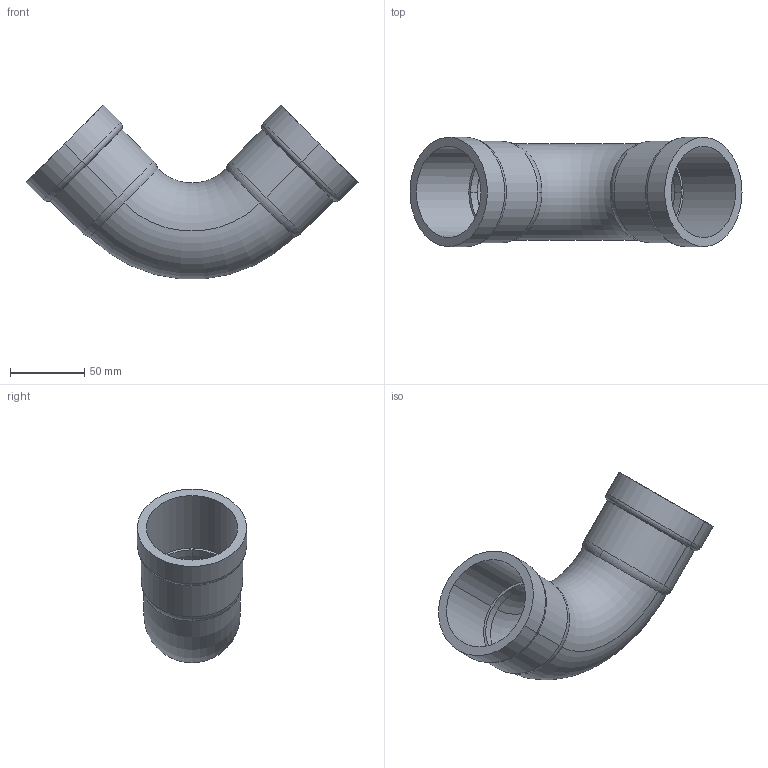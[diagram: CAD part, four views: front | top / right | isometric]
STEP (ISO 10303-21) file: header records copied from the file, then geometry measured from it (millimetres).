
FILE_DESCRIPTION(('Creo Elements/Direct Modeling STEP Export'),'2;1');
FILE_NAME('C9408_1-1-2.stp','2020-06-23T14:55:57',(''),(''),'PTC Creo Elements/Direct Modeling STEP processor for AP214 (Solid Model)','PTC Creo Elements/Direct Modeling 19.0C 15-Aug-2015 (C) Parametric Technology GmbH','');
FILE_SCHEMA(('AUTOMOTIVE_DESIGN { 1 0 10303 214 1 1 1 1 }'));
Length unit declared in the file: millimetre
Products named in the file (2): 9408
Assembly tree (1 placements, depth 2):
  9408
    9408
Bounding box: 224.04 x 73.8 x 117.23 mm (x, y, z)
Volume: 174189 mm3; surface area: 89959.2 mm2
Topology: 1 solids, 1 shells, 36 faces, 84 edges, 52 vertices
Faces by surface type: cylinder 16, torus 12, plane 4, cone 4
Entity records: 2551 total; most frequent: CARTESIAN_POINT 1724, ORIENTED_EDGE 168, DIRECTION 164, EDGE_CURVE 84, AXIS2_PLACEMENT_3D 72, VERTEX_POINT 52, EDGE_LOOP 40, FACE_OUTER_BOUND 36
